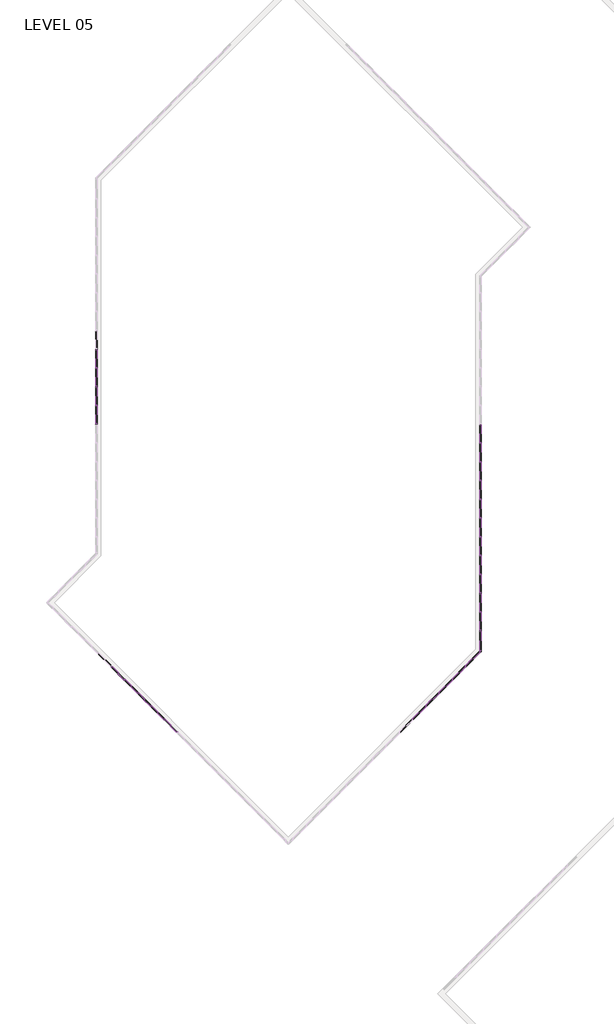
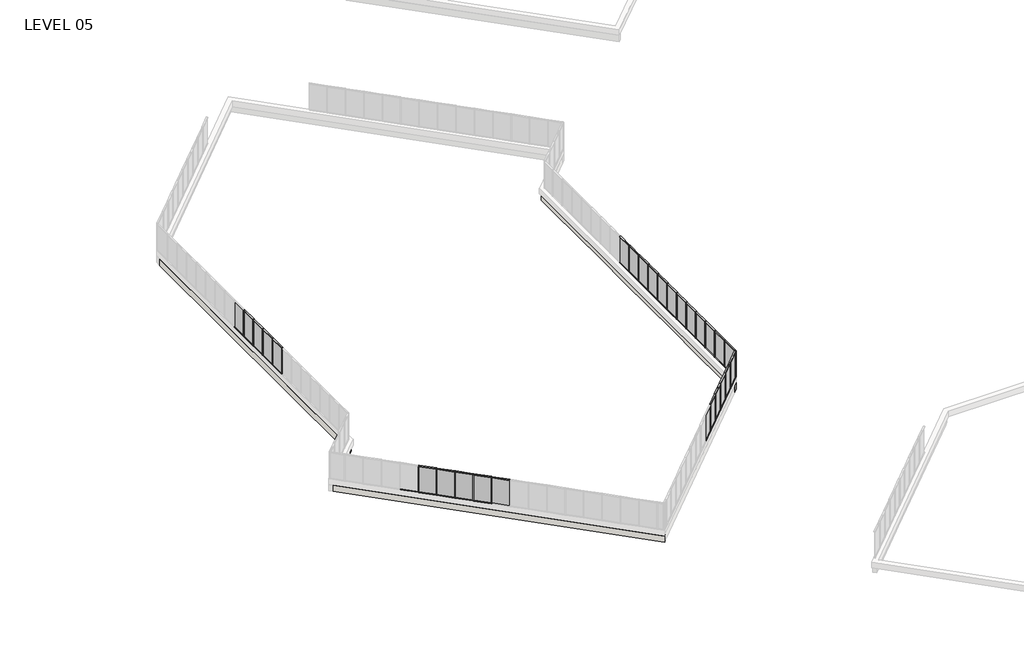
# One storey, part 4 of 17: 82 members, 28 plates, 3 walls.
"""IFC4 building model written with IfcOpenShell, lengths in millimetres."""

from ifc_helpers import new_model, si_unit, origin, place, context, project, spatial, faceted_brep, transform, mapped, element, save
from components import member_5247f267, member_e44af9ab, member_800970d4, member_c23f844a, member_1bd862b2, member_c975838b, member_ed9c17d6, plate_67294edd, plate_50b9cd61, plate_bbcbcabf, plate_db5d6751, plate_e0fd5134, plate_dca6a18a

model = new_model("IFC4")

# Units and contexts
model_context = context("Model", 3, world=origin())
ifc_project = project(units=[si_unit("LENGTHUNIT", "METRE", prefix="MILLI")], contexts=[model_context])

# Site, building, storey
site = spatial("IfcSite", under=ifc_project)
building = spatial("IfcBuilding", under=site)
storey = spatial("IfcBuildingStorey", under=building, Name="LEVEL 05", Elevation=15824.2)

# Members
placement = place(None, origin())
member_shape = member_5247f267(model_context)
element("IfcMember", 1, ObjectType="Rectangular Mullion : 2\" x 4.5\" rectangular", at=placement, inside=storey, context=model_context, shape_type="MappedRepresentation", body=[
    mapped(member_shape, transform((-32784.0347164, 58254.5675885, 18415.0), x_axis=(0.0, 0.0, 1.0), y_axis=(1.0, 0.0, 0.0), z_axis=(0.0, 1.0, 0.0))),
])
element("IfcMember", 2, ObjectType="Rectangular Mullion : 2\" x 4.5\" rectangular", at=placement, inside=storey, context=model_context, shape_type="MappedRepresentation", body=[
    mapped(member_shape, transform((-32784.0347164, 59778.5675885, 18415.0), x_axis=(0.0, 0.0, 1.0), y_axis=(1.0, 0.0, 0.0), z_axis=(0.0, 1.0, 0.0))),
])
element("IfcMember", 3, ObjectType="Rectangular Mullion : 2\" x 4.5\" rectangular", at=placement, inside=storey, context=model_context, shape_type="MappedRepresentation", body=[
    mapped(member_shape, transform((-32784.0347164, 62826.5675885, 18415.0), x_axis=(0.0, 0.0, 1.0), y_axis=(1.0, 0.0, 0.0), z_axis=(0.0, 1.0, 0.0))),
])
element("IfcMember", 4, ObjectType="Rectangular Mullion : 2\" x 4.5\" rectangular", at=placement, inside=storey, context=model_context, shape_type="MappedRepresentation", body=[
    mapped(member_shape, transform((-32784.0347164, 61302.5675885, 18415.0), x_axis=(0.0, 0.0, 1.0), y_axis=(1.0, 0.0, 0.0), z_axis=(0.0, 1.0, 0.0))),
])
element("IfcMember", 5, ObjectType="Rectangular Mullion : 2\" x 4.5\" rectangular", at=placement, inside=storey, context=model_context, shape_type="MappedRepresentation", body=[
    mapped(member_shape, transform((-1611.8847164, 49110.5675885, 18415.0), x_axis=(0.0, 0.0, 1.0), y_axis=(1.0, 0.0, 0.0), z_axis=(0.0, 1.0, 0.0))),
])
element("IfcMember", 6, ObjectType="Rectangular Mullion : 2\" x 4.5\" rectangular", at=placement, inside=storey, context=model_context, shape_type="MappedRepresentation", body=[
    mapped(member_shape, transform((-1611.8847164, 50634.5675885, 18415.0), x_axis=(0.0, 0.0, 1.0), y_axis=(1.0, 0.0, 0.0), z_axis=(0.0, 1.0, 0.0))),
])
element("IfcMember", 7, ObjectType="Rectangular Mullion : 2\" x 4.5\" rectangular", at=placement, inside=storey, context=model_context, shape_type="MappedRepresentation", body=[
    mapped(member_shape, transform((-1611.8847164, 52158.5675885, 18415.0), x_axis=(0.0, 0.0, 1.0), y_axis=(1.0, 0.0, 0.0), z_axis=(0.0, 1.0, 0.0))),
])
element("IfcMember", 8, ObjectType="Rectangular Mullion : 2\" x 4.5\" rectangular", at=placement, inside=storey, context=model_context, shape_type="MappedRepresentation", body=[
    mapped(member_shape, transform((-1611.8847164, 55206.5675885, 18415.0), x_axis=(0.0, 0.0, 1.0), y_axis=(1.0, 0.0, 0.0), z_axis=(0.0, 1.0, 0.0))),
])
element("IfcMember", 9, ObjectType="Rectangular Mullion : 2\" x 4.5\" rectangular", at=placement, inside=storey, context=model_context, shape_type="MappedRepresentation", body=[
    mapped(member_shape, transform((-1611.8847164, 56730.5675885, 18415.0), x_axis=(0.0, 0.0, 1.0), y_axis=(1.0, 0.0, 0.0), z_axis=(0.0, 1.0, 0.0))),
])
element("IfcMember", 10, ObjectType="Rectangular Mullion : 2\" x 4.5\" rectangular", at=placement, inside=storey, context=model_context, shape_type="MappedRepresentation", body=[
    mapped(member_shape, transform((-1611.8847164, 53682.5675885, 18415.0), x_axis=(0.0, 0.0, 1.0), y_axis=(1.0, 0.0, 0.0), z_axis=(0.0, 1.0, 0.0))),
])
element("IfcMember", 11, ObjectType="Rectangular Mullion : 2\" x 4.5\" rectangular", at=placement, inside=storey, context=model_context, shape_type="MappedRepresentation", body=[
    mapped(member_shape, transform((-1611.8847164, 47586.5675885, 18415.0), x_axis=(0.0, 0.0, 1.0), y_axis=(1.0, 0.0, 0.0), z_axis=(0.0, 1.0, 0.0))),
])
element("IfcMember", 12, ObjectType="Rectangular Mullion : 2\" x 4.5\" rectangular", at=placement, inside=storey, context=model_context, shape_type="MappedRepresentation", body=[
    mapped(member_shape, transform((-1611.8847164, 46062.5675885, 18415.0), x_axis=(0.0, 0.0, 1.0), y_axis=(1.0, 0.0, 0.0), z_axis=(0.0, 1.0, 0.0))),
])
element("IfcMember", 13, ObjectType="Rectangular Mullion : 2\" x 4.5\" rectangular", at=placement, inside=storey, context=model_context, shape_type="MappedRepresentation", body=[
    mapped(member_shape, transform((-1611.8847164, 44538.5675885, 18415.0), x_axis=(0.0, 0.0, 1.0), y_axis=(1.0, 0.0, 0.0), z_axis=(0.0, 1.0, 0.0))),
])
element("IfcMember", 14, ObjectType="Rectangular Mullion : 2\" x 4.5\" rectangular", at=placement, inside=storey, context=model_context, shape_type="MappedRepresentation", body=[
    mapped(member_shape, transform((-1611.8847164, 43014.5675885, 18415.0), x_axis=(0.0, 0.0, 1.0), y_axis=(1.0, 0.0, 0.0), z_axis=(0.0, 1.0, 0.0))),
])
element("IfcMember", 15, ObjectType="Rectangular Mullion : 2\" x 4.5\" rectangular", at=placement, inside=storey, context=model_context, shape_type="MappedRepresentation", body=[
    mapped(member_shape, transform((-1611.8847164, 41490.5675885, 18415.0), x_axis=(0.0, 0.0, 1.0), y_axis=(1.0, 0.0, 0.0), z_axis=(0.0, 1.0, 0.0))),
])
element("IfcMember", 16, ObjectType="Rectangular Mullion : 2\" x 4.5\" rectangular", at=placement, inside=storey, context=model_context, shape_type="MappedRepresentation", body=[
    mapped(member_shape, transform((-3866.0742688, 36048.0719005, 18415.0), x_axis=(0.0, 0.0, 1.0), y_axis=(-0.7071067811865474, 0.7071067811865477, 0.0), z_axis=(-0.7071067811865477, -0.7071067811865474, 0.0))),
])
element("IfcMember", 17, ObjectType="Rectangular Mullion : 2\" x 4.5\" rectangular", at=placement, inside=storey, context=model_context, shape_type="MappedRepresentation", body=[
    mapped(member_shape, transform((-4943.7050033, 34970.441166, 18415.0), x_axis=(0.0, 0.0, 1.0), y_axis=(-0.707106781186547, 0.707106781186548, 0.0), z_axis=(-0.707106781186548, -0.707106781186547, 0.0))),
])
element("IfcMember", 18, ObjectType="Rectangular Mullion : 2\" x 4.5\" rectangular", at=placement, inside=storey, context=model_context, shape_type="MappedRepresentation", body=[
    mapped(member_shape, transform((-6021.3357378, 33892.8104315, 18415.0), x_axis=(0.0, 0.0, 1.0), y_axis=(-0.7071067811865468, 0.7071067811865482, 0.0), z_axis=(-0.7071067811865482, -0.7071067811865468, 0.0))),
])
element("IfcMember", 19, ObjectType="Rectangular Mullion : 2\" x 4.5\" rectangular", at=placement, inside=storey, context=model_context, shape_type="MappedRepresentation", body=[
    mapped(member_shape, transform((-7098.9590715, 32815.1870978, 18415.0), x_axis=(0.0, 0.0, 1.0), y_axis=(-0.7071067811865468, 0.7071067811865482, 0.0), z_axis=(-0.7071067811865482, -0.7071067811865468, 0.0))),
])
element("IfcMember", 20, ObjectType="Rectangular Mullion : 2\" x 4.5\" rectangular", at=placement, inside=storey, context=model_context, shape_type="MappedRepresentation", body=[
    mapped(member_shape, transform((-32784.0347164, 56781.3675885, 15824.2), x_axis=(0.0, 0.0, -1.0), y_axis=(1.0, 0.0, 0.0), z_axis=(0.0, -1.0, 0.0))),
])
element("IfcMember", 21, ObjectType="Rectangular Mullion : 2\" x 4.5\" rectangular", at=placement, inside=storey, context=model_context, shape_type="MappedRepresentation", body=[
    mapped(member_shape, transform((-32784.0347164, 58305.3675885, 15824.2), x_axis=(0.0, 0.0, -1.0), y_axis=(1.0, 0.0, 0.0), z_axis=(0.0, -1.0, 0.0))),
])
element("IfcMember", 22, ObjectType="Rectangular Mullion : 2\" x 4.5\" rectangular", at=placement, inside=storey, context=model_context, shape_type="MappedRepresentation", body=[
    mapped(member_shape, transform((-32784.0347164, 59829.3675885, 15824.2), x_axis=(0.0, 0.0, -1.0), y_axis=(1.0, 0.0, 0.0), z_axis=(0.0, -1.0, 0.0))),
])
element("IfcMember", 23, ObjectType="Rectangular Mullion : 2\" x 4.5\" rectangular", at=placement, inside=storey, context=model_context, shape_type="MappedRepresentation", body=[
    mapped(member_shape, transform((-32784.0347164, 62877.3675885, 15824.2), x_axis=(0.0, 0.0, -1.0), y_axis=(1.0, 0.0, 0.0), z_axis=(0.0, -1.0, 0.0))),
])
element("IfcMember", 24, ObjectType="Rectangular Mullion : 2\" x 4.5\" rectangular", at=placement, inside=storey, context=model_context, shape_type="MappedRepresentation", body=[
    mapped(member_shape, transform((-32784.0347164, 61353.3675885, 15824.2), x_axis=(0.0, 0.0, -1.0), y_axis=(1.0, 0.0, 0.0), z_axis=(0.0, -1.0, 0.0))),
])
element("IfcMember", 25, ObjectType="Rectangular Mullion : 2\" x 4.5\" rectangular", at=placement, inside=storey, context=model_context, shape_type="MappedRepresentation", body=[
    mapped(member_shape, transform((-1611.8847164, 49161.3675885, 15824.2), x_axis=(0.0, 0.0, -1.0), y_axis=(1.0, 0.0, 0.0), z_axis=(0.0, -1.0, 0.0))),
])
element("IfcMember", 26, ObjectType="Rectangular Mullion : 2\" x 4.5\" rectangular", at=placement, inside=storey, context=model_context, shape_type="MappedRepresentation", body=[
    mapped(member_shape, transform((-1611.8847164, 50685.3675885, 15824.2), x_axis=(0.0, 0.0, -1.0), y_axis=(1.0, 0.0, 0.0), z_axis=(0.0, -1.0, 0.0))),
])
element("IfcMember", 27, ObjectType="Rectangular Mullion : 2\" x 4.5\" rectangular", at=placement, inside=storey, context=model_context, shape_type="MappedRepresentation", body=[
    mapped(member_shape, transform((-1611.8847164, 52209.3675885, 15824.2), x_axis=(0.0, 0.0, -1.0), y_axis=(1.0, 0.0, 0.0), z_axis=(0.0, -1.0, 0.0))),
])
element("IfcMember", 28, ObjectType="Rectangular Mullion : 2\" x 4.5\" rectangular", at=placement, inside=storey, context=model_context, shape_type="MappedRepresentation", body=[
    mapped(member_shape, transform((-1611.8847164, 55257.3675885, 15824.2), x_axis=(0.0, 0.0, -1.0), y_axis=(1.0, 0.0, 0.0), z_axis=(0.0, -1.0, 0.0))),
])
element("IfcMember", 29, ObjectType="Rectangular Mullion : 2\" x 4.5\" rectangular", at=placement, inside=storey, context=model_context, shape_type="MappedRepresentation", body=[
    mapped(member_shape, transform((-1611.8847164, 53733.3675885, 15824.2), x_axis=(0.0, 0.0, -1.0), y_axis=(1.0, 0.0, 0.0), z_axis=(0.0, -1.0, 0.0))),
])
element("IfcMember", 30, ObjectType="Rectangular Mullion : 2\" x 4.5\" rectangular", at=placement, inside=storey, context=model_context, shape_type="MappedRepresentation", body=[
    mapped(member_shape, transform((-1611.8847164, 47637.3675885, 15824.2), x_axis=(0.0, 0.0, -1.0), y_axis=(1.0, 0.0, 0.0), z_axis=(0.0, -1.0, 0.0))),
])
element("IfcMember", 31, ObjectType="Rectangular Mullion : 2\" x 4.5\" rectangular", at=placement, inside=storey, context=model_context, shape_type="MappedRepresentation", body=[
    mapped(member_shape, transform((-1611.8847164, 46113.3675885, 15824.2), x_axis=(0.0, 0.0, -1.0), y_axis=(1.0, 0.0, 0.0), z_axis=(0.0, -1.0, 0.0))),
])
element("IfcMember", 32, ObjectType="Rectangular Mullion : 2\" x 4.5\" rectangular", at=placement, inside=storey, context=model_context, shape_type="MappedRepresentation", body=[
    mapped(member_shape, transform((-1611.8847164, 44589.3675885, 15824.2), x_axis=(0.0, 0.0, -1.0), y_axis=(1.0, 0.0, 0.0), z_axis=(0.0, -1.0, 0.0))),
])
element("IfcMember", 33, ObjectType="Rectangular Mullion : 2\" x 4.5\" rectangular", at=placement, inside=storey, context=model_context, shape_type="MappedRepresentation", body=[
    mapped(member_shape, transform((-1611.8847164, 43065.3675885, 15824.2), x_axis=(0.0, 0.0, -1.0), y_axis=(1.0, 0.0, 0.0), z_axis=(0.0, -1.0, 0.0))),
])
element("IfcMember", 34, ObjectType="Rectangular Mullion : 2\" x 4.5\" rectangular", at=placement, inside=storey, context=model_context, shape_type="MappedRepresentation", body=[
    mapped(member_shape, transform((-1611.8847164, 41541.3675885, 15824.2), x_axis=(0.0, 0.0, -1.0), y_axis=(1.0, 0.0, 0.0), z_axis=(0.0, -1.0, 0.0))),
])
element("IfcMember", 35, ObjectType="Rectangular Mullion : 2\" x 4.5\" rectangular", at=placement, inside=storey, context=model_context, shape_type="MappedRepresentation", body=[
    mapped(member_shape, transform((-1611.8847164, 40017.3675885, 15824.2), x_axis=(0.0, 0.0, -1.0), y_axis=(1.0, 0.0, 0.0), z_axis=(0.0, -1.0, 0.0))),
])
element("IfcMember", 36, ObjectType="Rectangular Mullion : 2\" x 4.5\" rectangular", at=placement, inside=storey, context=model_context, shape_type="MappedRepresentation", body=[
    mapped(member_shape, transform((-3901.9952932, 36012.1508761, 15824.2), x_axis=(0.0, 0.0, -1.0), y_axis=(-0.7071067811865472, 0.7071067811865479, 0.0), z_axis=(0.7071067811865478, 0.7071067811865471, 0.0))),
])
element("IfcMember", 37, ObjectType="Rectangular Mullion : 2\" x 4.5\" rectangular", at=placement, inside=storey, context=model_context, shape_type="MappedRepresentation", body=[
    mapped(member_shape, transform((-4979.6260278, 34934.5201415, 15824.2), x_axis=(0.0, 0.0, -1.0), y_axis=(-0.7071067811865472, 0.7071067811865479, 0.0), z_axis=(0.7071067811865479, 0.7071067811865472, 0.0))),
])
element("IfcMember", 38, ObjectType="Rectangular Mullion : 2\" x 4.5\" rectangular", at=placement, inside=storey, context=model_context, shape_type="MappedRepresentation", body=[
    mapped(member_shape, transform((-6057.2567623, 33856.889407, 15824.2), x_axis=(0.0, 0.0, -1.0), y_axis=(-0.7071067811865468, 0.7071067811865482, 0.0), z_axis=(0.7071067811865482, 0.7071067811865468, 0.0))),
])
element("IfcMember", 39, ObjectType="Rectangular Mullion : 2\" x 4.5\" rectangular", at=placement, inside=storey, context=model_context, shape_type="MappedRepresentation", body=[
    mapped(member_shape, transform((-2824.3645587, 37089.7816106, 15824.2), x_axis=(0.0, 0.0, -1.0), y_axis=(-0.707106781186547, 0.7071067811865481, 0.0), z_axis=(0.707106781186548, 0.7071067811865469, 0.0))),
])
element("IfcMember", 40, ObjectType="Rectangular Mullion : 2\" x 4.5\" rectangular", at=placement, inside=storey, context=model_context, shape_type="MappedRepresentation", body=[
    mapped(member_shape, transform((-7134.880096, 32779.2660733, 15824.2), x_axis=(0.0, 0.0, -1.0), y_axis=(-0.7071067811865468, 0.7071067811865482, 0.0), z_axis=(0.7071067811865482, 0.7071067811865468, 0.0))),
])
element("IfcMember", 41, ObjectType="Rectangular Mullion : 2\" x 4.5\" rectangular", at=placement, inside=storey, context=model_context, shape_type="MappedRepresentation", body=[
    mapped(member_shape, transform((-31583.4219356, 37101.6486721, 15824.2), x_axis=(0.0, 0.0, -1.0), y_axis=(0.7071067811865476, 0.7071067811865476, 0.0), z_axis=(0.7071067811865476, -0.7071067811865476, 0.0))),
])
member_2_shape = member_e44af9ab(model_context)
element("IfcMember", 42, ObjectType="Rectangular Mullion : 2\" x 4.5\" rectangular", at=placement, inside=storey, context=model_context, shape_type="MappedRepresentation", body=[
    mapped(member_2_shape, transform((-32784.0347164, 56755.9675885, 15824.2), x_axis=(0.0, 1.0, 0.0), y_axis=(1.0, 0.0, 0.0), z_axis=(0.0, 0.0, -1.0))),
])
element("IfcMember", 43, ObjectType="Rectangular Mullion : 2\" x 4.5\" rectangular", at=placement, inside=storey, context=model_context, shape_type="MappedRepresentation", body=[
    mapped(member_2_shape, transform((-32784.0347164, 58279.9675885, 15824.2), x_axis=(0.0, 1.0, 0.0), y_axis=(1.0, 0.0, 0.0), z_axis=(0.0, 0.0, -1.0))),
])
element("IfcMember", 44, ObjectType="Rectangular Mullion : 2\" x 4.5\" rectangular", at=placement, inside=storey, context=model_context, shape_type="MappedRepresentation", body=[
    mapped(member_2_shape, transform((-32784.0347164, 59803.9675885, 15824.2), x_axis=(0.0, 1.0, 0.0), y_axis=(1.0, 0.0, 0.0), z_axis=(0.0, 0.0, -1.0))),
])
element("IfcMember", 45, ObjectType="Rectangular Mullion : 2\" x 4.5\" rectangular", at=placement, inside=storey, context=model_context, shape_type="MappedRepresentation", body=[
    mapped(member_2_shape, transform((-32784.0347164, 62851.9675885, 15824.2), x_axis=(0.0, 1.0, 0.0), y_axis=(1.0, 0.0, 0.0), z_axis=(0.0, 0.0, -1.0))),
])
element("IfcMember", 46, ObjectType="Rectangular Mullion : 2\" x 4.5\" rectangular", at=placement, inside=storey, context=model_context, shape_type="MappedRepresentation", body=[
    mapped(member_2_shape, transform((-32784.0347164, 61327.9675885, 15824.2), x_axis=(0.0, 1.0, 0.0), y_axis=(1.0, 0.0, 0.0), z_axis=(0.0, 0.0, -1.0))),
])
element("IfcMember", 47, ObjectType="Rectangular Mullion : 2\" x 4.5\" rectangular", at=placement, inside=storey, context=model_context, shape_type="MappedRepresentation", body=[
    mapped(member_2_shape, transform((-1611.8847164, 49135.9675885, 15824.2), x_axis=(0.0, 1.0, 0.0), y_axis=(1.0, 0.0, 0.0), z_axis=(0.0, 0.0, -1.0))),
])
element("IfcMember", 48, ObjectType="Rectangular Mullion : 2\" x 4.5\" rectangular", at=placement, inside=storey, context=model_context, shape_type="MappedRepresentation", body=[
    mapped(member_2_shape, transform((-1611.8847164, 50659.9675885, 15824.2), x_axis=(0.0, 1.0, 0.0), y_axis=(1.0, 0.0, 0.0), z_axis=(0.0, 0.0, -1.0))),
])
element("IfcMember", 49, ObjectType="Rectangular Mullion : 2\" x 4.5\" rectangular", at=placement, inside=storey, context=model_context, shape_type="MappedRepresentation", body=[
    mapped(member_2_shape, transform((-1611.8847164, 52183.9675885, 15824.2), x_axis=(0.0, 1.0, 0.0), y_axis=(1.0, 0.0, 0.0), z_axis=(0.0, 0.0, -1.0))),
])
element("IfcMember", 50, ObjectType="Rectangular Mullion : 2\" x 4.5\" rectangular", at=placement, inside=storey, context=model_context, shape_type="MappedRepresentation", body=[
    mapped(member_2_shape, transform((-1611.8847164, 55231.9675885, 15824.2), x_axis=(0.0, 1.0, 0.0), y_axis=(1.0, 0.0, 0.0), z_axis=(0.0, 0.0, -1.0))),
])
element("IfcMember", 51, ObjectType="Rectangular Mullion : 2\" x 4.5\" rectangular", at=placement, inside=storey, context=model_context, shape_type="MappedRepresentation", body=[
    mapped(member_2_shape, transform((-1611.8847164, 53707.9675885, 15824.2), x_axis=(0.0, 1.0, 0.0), y_axis=(1.0, 0.0, 0.0), z_axis=(0.0, 0.0, -1.0))),
])
element("IfcMember", 52, ObjectType="Rectangular Mullion : 2\" x 4.5\" rectangular", at=placement, inside=storey, context=model_context, shape_type="MappedRepresentation", body=[
    mapped(member_2_shape, transform((-1611.8847164, 47611.9675885, 15824.2), x_axis=(0.0, 1.0, 0.0), y_axis=(1.0, 0.0, 0.0), z_axis=(0.0, 0.0, -1.0))),
])
element("IfcMember", 53, ObjectType="Rectangular Mullion : 2\" x 4.5\" rectangular", at=placement, inside=storey, context=model_context, shape_type="MappedRepresentation", body=[
    mapped(member_2_shape, transform((-1611.8847164, 46087.9675885, 15824.2), x_axis=(0.0, 1.0, 0.0), y_axis=(1.0, 0.0, 0.0), z_axis=(0.0, 0.0, -1.0))),
])
element("IfcMember", 54, ObjectType="Rectangular Mullion : 2\" x 4.5\" rectangular", at=placement, inside=storey, context=model_context, shape_type="MappedRepresentation", body=[
    mapped(member_2_shape, transform((-1611.8847164, 44563.9675885, 15824.2), x_axis=(0.0, 1.0, 0.0), y_axis=(1.0, 0.0, 0.0), z_axis=(0.0, 0.0, -1.0))),
])
element("IfcMember", 55, ObjectType="Rectangular Mullion : 2\" x 4.5\" rectangular", at=placement, inside=storey, context=model_context, shape_type="MappedRepresentation", body=[
    mapped(member_2_shape, transform((-1611.8847164, 43039.9675885, 15824.2), x_axis=(0.0, 1.0, 0.0), y_axis=(1.0, 0.0, 0.0), z_axis=(0.0, 0.0, -1.0))),
])
element("IfcMember", 56, ObjectType="Rectangular Mullion : 2\" x 4.5\" rectangular", at=placement, inside=storey, context=model_context, shape_type="MappedRepresentation", body=[
    mapped(member_2_shape, transform((-1611.8847164, 41515.9675885, 15824.2), x_axis=(0.0, 1.0, 0.0), y_axis=(1.0, 0.0, 0.0), z_axis=(0.0, 0.0, -1.0))),
])
element("IfcMember", 57, ObjectType="Rectangular Mullion : 2\" x 4.5\" rectangular", at=placement, inside=storey, context=model_context, shape_type="MappedRepresentation", body=[
    mapped(member_2_shape, transform((-1611.8847164, 39991.9675885, 15824.2), x_axis=(0.0, 1.0, 0.0), y_axis=(1.0, 0.0, 0.0), z_axis=(0.0, 0.0, -1.0))),
])
element("IfcMember", 58, ObjectType="Rectangular Mullion : 2\" x 4.5\" rectangular", at=placement, inside=storey, context=model_context, shape_type="MappedRepresentation", body=[
    mapped(member_2_shape, transform((-3884.034781, 36030.1113883, 15824.2), x_axis=(-0.7071067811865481, -0.7071067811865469, 0.0), y_axis=(-0.7071067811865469, 0.7071067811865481, 0.0), z_axis=(0.0, 0.0, -1.0))),
])
element("IfcMember", 59, ObjectType="Rectangular Mullion : 2\" x 4.5\" rectangular", at=placement, inside=storey, context=model_context, shape_type="MappedRepresentation", body=[
    mapped(member_2_shape, transform((-4961.6655155, 34952.4806538, 15824.2), x_axis=(-0.7071067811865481, -0.7071067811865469, 0.0), y_axis=(-0.7071067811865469, 0.7071067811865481, 0.0), z_axis=(0.0, 0.0, -1.0))),
])
element("IfcMember", 60, ObjectType="Rectangular Mullion : 2\" x 4.5\" rectangular", at=placement, inside=storey, context=model_context, shape_type="MappedRepresentation", body=[
    mapped(member_2_shape, transform((-6039.2962501, 33874.8499192, 15824.2), x_axis=(-0.7071067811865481, -0.7071067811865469, 0.0), y_axis=(-0.7071067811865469, 0.7071067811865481, 0.0), z_axis=(0.0, 0.0, -1.0))),
])
element("IfcMember", 61, ObjectType="Rectangular Mullion : 2\" x 4.5\" rectangular", at=placement, inside=storey, context=model_context, shape_type="MappedRepresentation", body=[
    mapped(member_2_shape, transform((-2806.4040465, 37107.7421228, 15824.2), x_axis=(-0.7071067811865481, -0.7071067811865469, 0.0), y_axis=(-0.7071067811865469, 0.7071067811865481, 0.0), z_axis=(0.0, 0.0, -1.0))),
])
element("IfcMember", 62, ObjectType="Rectangular Mullion : 2\" x 4.5\" rectangular", at=placement, inside=storey, context=model_context, shape_type="MappedRepresentation", body=[
    mapped(member_2_shape, transform((-7116.9195837, 32797.2265856, 15824.2), x_axis=(-0.7071067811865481, -0.7071067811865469, 0.0), y_axis=(-0.7071067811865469, 0.7071067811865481, 0.0), z_axis=(0.0, 0.0, -1.0))),
])
element("IfcMember", 63, ObjectType="Rectangular Mullion : 2\" x 4.5\" rectangular", at=placement, inside=storey, context=model_context, shape_type="MappedRepresentation", body=[
    mapped(member_2_shape, transform((-28350.531194, 33868.7579305, 15824.2), x_axis=(-0.7071067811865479, 0.7071067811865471, 0.0), y_axis=(0.7071067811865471, 0.7071067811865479, 0.0), z_axis=(0.0, 0.0, -1.0))),
])
element("IfcMember", 64, ObjectType="Rectangular Mullion : 2\" x 4.5\" rectangular", at=placement, inside=storey, context=model_context, shape_type="MappedRepresentation", body=[
    mapped(member_2_shape, transform((-29422.1746038, 34940.4013403, 15824.2), x_axis=(-0.7071067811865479, 0.7071067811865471, 0.0), y_axis=(0.7071067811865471, 0.7071067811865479, 0.0), z_axis=(0.0, 0.0, -1.0))),
])
element("IfcMember", 65, ObjectType="Rectangular Mullion : 2\" x 4.5\" rectangular", at=placement, inside=storey, context=model_context, shape_type="MappedRepresentation", body=[
    mapped(member_2_shape, transform((-30493.8180136, 36012.0447501, 15824.2), x_axis=(-0.7071067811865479, 0.7071067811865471, 0.0), y_axis=(0.7071067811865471, 0.7071067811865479, 0.0), z_axis=(0.0, 0.0, -1.0))),
])
element("IfcMember", 66, ObjectType="Rectangular Mullion : 2\" x 4.5\" rectangular", at=placement, inside=storey, context=model_context, shape_type="MappedRepresentation", body=[
    mapped(member_2_shape, transform((-31565.4614234, 37083.6881599, 15824.2), x_axis=(-0.7071067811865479, 0.7071067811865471, 0.0), y_axis=(0.7071067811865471, 0.7071067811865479, 0.0), z_axis=(0.0, 0.0, -1.0))),
])
element("IfcMember", 67, ObjectType="Rectangular Mullion : 2\" x 4.5\" rectangular", at=placement, inside=storey, context=model_context, shape_type="MappedRepresentation", body=[
    mapped(member_2_shape, transform((-27275.9119891, 32794.1387256, 15824.2), x_axis=(-0.7071067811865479, 0.7071067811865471, 0.0), y_axis=(0.7071067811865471, 0.7071067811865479, 0.0), z_axis=(0.0, 0.0, -1.0))),
])
member_3_shape = member_800970d4(model_context)
element("IfcMember", 68, ObjectType="Rectangular Mullion : 2\" x 4.5\" rectangular", at=placement, inside=storey, context=model_context, shape_type="MappedRepresentation", body=[
    mapped(member_3_shape, transform((-1611.8847164, 38302.2614529, 18415.0), x_axis=(0.0, -1.0, 0.0), y_axis=(1.0, 0.0, 0.0), z_axis=(0.0, 0.0, 1.0))),
])
element("IfcMember", 69, ObjectType="Rectangular Mullion : 2\" x 4.5\" rectangular", at=placement, inside=storey, context=model_context, shape_type="MappedRepresentation", body=[
    mapped(member_3_shape, transform((-1611.8847164, 38302.2614529, 18415.0), x_axis=(0.7071067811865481, 0.7071067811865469, 0.0), y_axis=(-0.7071067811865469, 0.7071067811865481, 0.0), z_axis=(0.0, 0.0, 1.0))),
])
member_4_shape = member_c23f844a(model_context)
element("IfcMember", 70, ObjectType="Rectangular Mullion : 2\" x 4.5\" rectangular", at=placement, inside=storey, context=model_context, shape_type="MappedRepresentation", body=[
    mapped(member_4_shape, transform((-29404.2140916, 34922.4408281, 18415.0), x_axis=(0.0, 0.0, 1.0), y_axis=(0.7071067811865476, 0.7071067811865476, 0.0), z_axis=(-0.7071067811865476, 0.7071067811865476, 0.0))),
])
element("IfcMember", 71, ObjectType="Rectangular Mullion : 2\" x 4.5\" rectangular", at=placement, inside=storey, context=model_context, shape_type="MappedRepresentation", body=[
    mapped(member_4_shape, transform((-30475.8575014, 35994.0842378, 18415.0), x_axis=(0.0, 0.0, 1.0), y_axis=(0.7071067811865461, 0.707106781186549, 0.0), z_axis=(-0.707106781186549, 0.7071067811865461, 0.0))),
])
element("IfcMember", 72, ObjectType="Rectangular Mullion : 2\" x 4.5\" rectangular", at=placement, inside=storey, context=model_context, shape_type="MappedRepresentation", body=[
    mapped(member_4_shape, transform((-31547.5009111, 37065.7276476, 18415.0), x_axis=(0.0, 0.0, 1.0), y_axis=(0.7071067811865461, 0.707106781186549, 0.0), z_axis=(-0.7071067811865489, 0.707106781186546, 0.0))),
])
element("IfcMember", 73, ObjectType="Rectangular Mullion : 2\" x 4.5\" rectangular", at=placement, inside=storey, context=model_context, shape_type="MappedRepresentation", body=[
    mapped(member_4_shape, transform((-28368.4917063, 33886.7184427, 15824.2), x_axis=(0.0, 0.0, -1.0), y_axis=(0.7071067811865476, 0.7071067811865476, 0.0), z_axis=(0.7071067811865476, -0.7071067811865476, 0.0))),
])
element("IfcMember", 74, ObjectType="Rectangular Mullion : 2\" x 4.5\" rectangular", at=placement, inside=storey, context=model_context, shape_type="MappedRepresentation", body=[
    mapped(member_4_shape, transform((-29440.135116, 34958.3618525, 15824.2), x_axis=(0.0, 0.0, -1.0), y_axis=(0.7071067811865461, 0.707106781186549, 0.0), z_axis=(0.707106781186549, -0.7071067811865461, 0.0))),
])
element("IfcMember", 75, ObjectType="Rectangular Mullion : 2\" x 4.5\" rectangular", at=placement, inside=storey, context=model_context, shape_type="MappedRepresentation", body=[
    mapped(member_4_shape, transform((-30511.7785258, 36030.0052623, 15824.2), x_axis=(0.0, 0.0, -1.0), y_axis=(0.7071067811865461, 0.707106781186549, 0.0), z_axis=(0.7071067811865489, -0.707106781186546, 0.0))),
])
member_5_shape = member_1bd862b2(model_context)
element("IfcMember", 76, ObjectType="Rectangular Mullion : 2\" x 4.5\" rectangular", at=placement, inside=storey, context=model_context, shape_type="MappedRepresentation", body=[
    mapped(member_5_shape, transform((-1611.8847164, 38353.0614529, 15824.2), x_axis=(0.0, 0.0, -1.0), y_axis=(1.0, 0.0, 0.0), z_axis=(0.0, -1.0, 0.0))),
])
element("IfcMember", 77, ObjectType="Rectangular Mullion : 2\" x 4.5\" rectangular", at=placement, inside=storey, context=model_context, shape_type="MappedRepresentation", body=[
    mapped(member_5_shape, transform((-1611.8847164, 39966.5675885, 18415.0), x_axis=(0.0, 0.0, 1.0), y_axis=(1.0, 0.0, 0.0), z_axis=(0.0, 1.0, 0.0))),
])
member_6_shape = member_c975838b(model_context)
element("IfcMember", 78, ObjectType="Rectangular Mullion : 2\" x 4.5\" rectangular", at=placement, inside=storey, context=model_context, shape_type="MappedRepresentation", body=[
    mapped(member_6_shape, transform((-1647.8057409, 38266.3404284, 15824.2), x_axis=(0.0, 0.0, -1.0), y_axis=(-0.7071067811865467, 0.7071067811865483, 0.0), z_axis=(0.7071067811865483, 0.7071067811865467, 0.0))),
])
element("IfcMember", 79, ObjectType="Rectangular Mullion : 2\" x 4.5\" rectangular", at=placement, inside=storey, context=model_context, shape_type="MappedRepresentation", body=[
    mapped(member_6_shape, transform((-2788.4435342, 37125.7026351, 18415.0), x_axis=(0.0, 0.0, 1.0), y_axis=(-0.7071067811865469, 0.7071067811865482, 0.0), z_axis=(-0.7071067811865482, -0.7071067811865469, 0.0))),
])
member_7_shape = member_ed9c17d6(model_context)
element("IfcMember", 80, ObjectType="Rectangular Mullion : 2\" x 4.5\" rectangular", at=placement, inside=storey, context=model_context, shape_type="MappedRepresentation", body=[
    mapped(member_7_shape, transform((-28332.5706818, 33850.7974183, 18415.0), x_axis=(0.0, 0.0, 1.0), y_axis=(0.7071067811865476, 0.7071067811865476, 0.0), z_axis=(-0.7071067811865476, 0.7071067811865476, 0.0))),
])
element("IfcMember", 81, ObjectType="Rectangular Mullion : 2\" x 4.5\" rectangular", at=placement, inside=storey, context=model_context, shape_type="MappedRepresentation", body=[
    mapped(member_7_shape, transform((-27257.9514769, 32776.1782134, 18415.0), x_axis=(0.0, 0.0, 1.0), y_axis=(0.7071067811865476, 0.7071067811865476, 0.0), z_axis=(-0.7071067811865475, 0.7071067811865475, 0.0))),
])
element("IfcMember", 82, ObjectType="Rectangular Mullion : 2\" x 4.5\" rectangular", at=placement, inside=storey, context=model_context, shape_type="MappedRepresentation", body=[
    mapped(member_7_shape, transform((-27293.8725014, 32812.0992378, 15824.2), x_axis=(0.0, 0.0, -1.0), y_axis=(0.7071067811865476, 0.7071067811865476, 0.0), z_axis=(0.7071067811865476, -0.7071067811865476, 0.0))),
])

# Plates
plate_shape = plate_67294edd(model_context)
element("IfcPlate", 83, ObjectType="System Panel : 1/4\" Glass", at=placement, inside=storey, context=model_context, shape_type="MappedRepresentation", body=[
    mapped(plate_shape, transform((-32784.0347164, 57517.9675885, 15875.0), x_axis=(0.0, 1.0, 0.0), y_axis=(-1.0, 0.0, 0.0), z_axis=(0.0, 0.0, 1.0))),
])
element("IfcPlate", 84, ObjectType="System Panel : 1/4\" Glass", at=placement, inside=storey, context=model_context, shape_type="MappedRepresentation", body=[
    mapped(plate_shape, transform((-32784.0347164, 59041.9675885, 15875.0), x_axis=(0.0, 1.0, 0.0), y_axis=(-1.0, 0.0, 0.0), z_axis=(0.0, 0.0, 1.0))),
])
element("IfcPlate", 85, ObjectType="System Panel : 1/4\" Glass", at=placement, inside=storey, context=model_context, shape_type="MappedRepresentation", body=[
    mapped(plate_shape, transform((-32784.0347164, 60565.9675885, 15875.0), x_axis=(0.0, 1.0, 0.0), y_axis=(-1.0, 0.0, 0.0), z_axis=(0.0, 0.0, 1.0))),
])
element("IfcPlate", 86, ObjectType="System Panel : 1/4\" Glass", at=placement, inside=storey, context=model_context, shape_type="MappedRepresentation", body=[
    mapped(plate_shape, transform((-32784.0347164, 63613.9675885, 15875.0), x_axis=(0.0, 1.0, 0.0), y_axis=(-1.0, 0.0, 0.0), z_axis=(0.0, 0.0, 1.0))),
])
element("IfcPlate", 87, ObjectType="System Panel : 1/4\" Glass", at=placement, inside=storey, context=model_context, shape_type="MappedRepresentation", body=[
    mapped(plate_shape, transform((-32784.0347164, 62089.9675885, 15875.0), x_axis=(0.0, 1.0, 0.0), y_axis=(-1.0, 0.0, 0.0), z_axis=(0.0, 0.0, 1.0))),
])
element("IfcPlate", 88, ObjectType="System Panel : 1/4\" Glass", at=placement, inside=storey, context=model_context, shape_type="MappedRepresentation", body=[
    mapped(plate_shape, transform((-1611.8847164, 49897.9675885, 15875.0), x_axis=(0.0, 1.0, 0.0), y_axis=(-1.0, 0.0, 0.0), z_axis=(0.0, 0.0, 1.0))),
])
element("IfcPlate", 89, ObjectType="System Panel : 1/4\" Glass", at=placement, inside=storey, context=model_context, shape_type="MappedRepresentation", body=[
    mapped(plate_shape, transform((-1611.8847164, 51421.9675885, 15875.0), x_axis=(0.0, 1.0, 0.0), y_axis=(-1.0, 0.0, 0.0), z_axis=(0.0, 0.0, 1.0))),
])
element("IfcPlate", 90, ObjectType="System Panel : 1/4\" Glass", at=placement, inside=storey, context=model_context, shape_type="MappedRepresentation", body=[
    mapped(plate_shape, transform((-1611.8847164, 52945.9675885, 15875.0), x_axis=(0.0, 1.0, 0.0), y_axis=(-1.0, 0.0, 0.0), z_axis=(0.0, 0.0, 1.0))),
])
element("IfcPlate", 91, ObjectType="System Panel : 1/4\" Glass", at=placement, inside=storey, context=model_context, shape_type="MappedRepresentation", body=[
    mapped(plate_shape, transform((-1611.8847164, 55993.9675885, 15875.0), x_axis=(0.0, 1.0, 0.0), y_axis=(-1.0, 0.0, 0.0), z_axis=(0.0, 0.0, 1.0))),
])
element("IfcPlate", 92, ObjectType="System Panel : 1/4\" Glass", at=placement, inside=storey, context=model_context, shape_type="MappedRepresentation", body=[
    mapped(plate_shape, transform((-1611.8847164, 54469.9675885, 15875.0), x_axis=(0.0, 1.0, 0.0), y_axis=(-1.0, 0.0, 0.0), z_axis=(0.0, 0.0, 1.0))),
])
element("IfcPlate", 93, ObjectType="System Panel : 1/4\" Glass", at=placement, inside=storey, context=model_context, shape_type="MappedRepresentation", body=[
    mapped(plate_shape, transform((-1611.8847164, 48373.9675885, 15875.0), x_axis=(0.0, 1.0, 0.0), y_axis=(-1.0, 0.0, 0.0), z_axis=(0.0, 0.0, 1.0))),
])
element("IfcPlate", 94, ObjectType="System Panel : 1/4\" Glass", at=placement, inside=storey, context=model_context, shape_type="MappedRepresentation", body=[
    mapped(plate_shape, transform((-1611.8847164, 46849.9675885, 15875.0), x_axis=(0.0, 1.0, 0.0), y_axis=(-1.0, 0.0, 0.0), z_axis=(0.0, 0.0, 1.0))),
])
element("IfcPlate", 95, ObjectType="System Panel : 1/4\" Glass", at=placement, inside=storey, context=model_context, shape_type="MappedRepresentation", body=[
    mapped(plate_shape, transform((-1611.8847164, 45325.9675885, 15875.0), x_axis=(0.0, 1.0, 0.0), y_axis=(-1.0, 0.0, 0.0), z_axis=(0.0, 0.0, 1.0))),
])
element("IfcPlate", 96, ObjectType="System Panel : 1/4\" Glass", at=placement, inside=storey, context=model_context, shape_type="MappedRepresentation", body=[
    mapped(plate_shape, transform((-1611.8847164, 43801.9675885, 15875.0), x_axis=(0.0, 1.0, 0.0), y_axis=(-1.0, 0.0, 0.0), z_axis=(0.0, 0.0, 1.0))),
])
element("IfcPlate", 97, ObjectType="System Panel : 1/4\" Glass", at=placement, inside=storey, context=model_context, shape_type="MappedRepresentation", body=[
    mapped(plate_shape, transform((-1611.8847164, 42277.9675885, 15875.0), x_axis=(0.0, 1.0, 0.0), y_axis=(-1.0, 0.0, 0.0), z_axis=(0.0, 0.0, 1.0))),
])
element("IfcPlate", 98, ObjectType="System Panel : 1/4\" Glass", at=placement, inside=storey, context=model_context, shape_type="MappedRepresentation", body=[
    mapped(plate_shape, transform((-1611.8847164, 40753.9675885, 15875.0), x_axis=(0.0, 1.0, 0.0), y_axis=(-1.0, 0.0, 0.0), z_axis=(0.0, 0.0, 1.0))),
])
element("IfcPlate", 99, ObjectType="System Panel : 1/4\" Glass", at=placement, inside=storey, context=model_context, shape_type="MappedRepresentation", body=[
    mapped(plate_shape, transform((-4422.8501483, 35491.296021, 15875.0), x_axis=(-0.7071067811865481, -0.7071067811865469, 0.0), y_axis=(0.7071067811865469, -0.7071067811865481, 0.0), z_axis=(0.0, 0.0, 1.0))),
])
element("IfcPlate", 100, ObjectType="System Panel : 1/4\" Glass", at=placement, inside=storey, context=model_context, shape_type="MappedRepresentation", body=[
    mapped(plate_shape, transform((-5500.4808828, 34413.6652865, 15875.0), x_axis=(-0.7071067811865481, -0.7071067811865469, 0.0), y_axis=(0.7071067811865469, -0.7071067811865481, 0.0), z_axis=(0.0, 0.0, 1.0))),
])
element("IfcPlate", 101, ObjectType="System Panel : 1/4\" Glass", at=placement, inside=storey, context=model_context, shape_type="MappedRepresentation", body=[
    mapped(plate_shape, transform((-3345.2194137, 36568.9267556, 15875.0), x_axis=(-0.7071067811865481, -0.7071067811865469, 0.0), y_axis=(0.7071067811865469, -0.7071067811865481, 0.0), z_axis=(0.0, 0.0, 1.0))),
])
plate_2_shape = plate_50b9cd61(model_context)
element("IfcPlate", 102, ObjectType="System Panel : 1/4\" Glass", at=placement, inside=storey, context=model_context, shape_type="MappedRepresentation", body=[
    mapped(plate_2_shape, transform((-28886.3528989, 34404.5796354, 15875.0), x_axis=(-0.7071067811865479, 0.7071067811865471, 0.0), y_axis=(-0.7071067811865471, -0.7071067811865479, 0.0), z_axis=(0.0, 0.0, 1.0))),
])
element("IfcPlate", 103, ObjectType="System Panel : 1/4\" Glass", at=placement, inside=storey, context=model_context, shape_type="MappedRepresentation", body=[
    mapped(plate_2_shape, transform((-29957.9963087, 35476.2230452, 15875.0), x_axis=(-0.7071067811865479, 0.7071067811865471, 0.0), y_axis=(-0.7071067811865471, -0.7071067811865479, 0.0), z_axis=(0.0, 0.0, 1.0))),
])
element("IfcPlate", 104, ObjectType="System Panel : 1/4\" Glass", at=placement, inside=storey, context=model_context, shape_type="MappedRepresentation", body=[
    mapped(plate_2_shape, transform((-31029.6397185, 36547.866455, 15875.0), x_axis=(-0.7071067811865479, 0.7071067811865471, 0.0), y_axis=(-0.7071067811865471, -0.7071067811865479, 0.0), z_axis=(0.0, 0.0, 1.0))),
])
plate_3_shape = plate_bbcbcabf(model_context)
element("IfcPlate", 105, ObjectType="System Panel : 1/4\" Glass", at=placement, inside=storey, context=model_context, shape_type="MappedRepresentation", body=[
    mapped(plate_3_shape, transform((-1611.8847164, 39159.8145207, 15875.0), x_axis=(0.0, 1.0, 0.0), y_axis=(-1.0, 0.0, 0.0), z_axis=(0.0, 0.0, 1.0))),
])
plate_4_shape = plate_db5d6751(model_context)
element("IfcPlate", 106, ObjectType="System Panel : 1/4\" Glass", at=placement, inside=storey, context=model_context, shape_type="MappedRepresentation", body=[
    mapped(plate_4_shape, transform((-2218.1246376, 37696.0215317, 15875.0), x_axis=(-0.7071067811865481, -0.7071067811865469, 0.0), y_axis=(0.7071067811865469, -0.7071067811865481, 0.0), z_axis=(0.0, 0.0, 1.0))),
])
plate_5_shape = plate_e0fd5134(model_context)
element("IfcPlate", 107, ObjectType="System Panel : 1/4\" Glass", at=placement, inside=storey, context=model_context, shape_type="MappedRepresentation", body=[
    mapped(plate_5_shape, transform((-6578.1079169, 33336.0382524, 15875.0), x_axis=(-0.7071067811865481, -0.7071067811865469, 0.0), y_axis=(0.7071067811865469, -0.7071067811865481, 0.0), z_axis=(0.0, 0.0, 1.0))),
])
element("IfcPlate", 108, ObjectType="System Panel : 1/4\" Glass", at=placement, inside=storey, context=model_context, shape_type="MappedRepresentation", body=[
    mapped(plate_5_shape, transform((-7655.7312505, 32258.4149187, 15875.0), x_axis=(-0.7071067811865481, -0.7071067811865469, 0.0), y_axis=(0.7071067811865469, -0.7071067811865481, 0.0), z_axis=(0.0, 0.0, 1.0))),
])
plate_6_shape = plate_dca6a18a(model_context)
element("IfcPlate", 109, ObjectType="System Panel : 1/4\" Glass", at=placement, inside=storey, context=model_context, shape_type="MappedRepresentation", body=[
    mapped(plate_6_shape, transform((-26738.6023867, 32256.8291232, 15875.0), x_axis=(-0.7071067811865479, 0.7071067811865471, 0.0), y_axis=(-0.7071067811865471, -0.7071067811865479, 0.0), z_axis=(0.0, 0.0, 1.0))),
])
element("IfcPlate", 110, ObjectType="System Panel : 1/4\" Glass", at=placement, inside=storey, context=model_context, shape_type="MappedRepresentation", body=[
    mapped(plate_6_shape, transform((-27813.2215916, 33331.4483281, 15875.0), x_axis=(-0.7071067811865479, 0.7071067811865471, 0.0), y_axis=(-0.7071067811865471, -0.7071067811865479, 0.0), z_axis=(0.0, 0.0, 1.0))),
])

# Walls
element("IfcWall", 111, ObjectType="01-CONCRETE-12", at=placement, inside=storey, context=model_context, shape_type="Brep", body=[
    faceted_brep([(-1554.7347164, 38278.5891478, 14643.1), (-1554.7347164, 68758.5891478, 14643.1), (-1554.7347164, 69189.6414416, 14643.1), (-1554.7347164, 69189.6414416, 15265.4), (-1554.7347164, 68758.5891478, 15265.4), (-1554.7347164, 38278.5891478, 15265.4), (-1859.5347164, 37973.7891478, 14643.1), (-1859.5347164, 37973.7891478, 15265.4), (-1859.5347164, 38404.8414416, 15265.4), (-1859.5347164, 38687.1039803, 15265.4), (-1859.5347164, 45783.1675885, 15265.4), (-1859.5347164, 46392.7675885, 15265.4), (-1859.5347164, 53403.1675885, 15265.4), (-1859.5347164, 54012.7675885, 15265.4), (-1859.5347164, 61023.1675885, 15265.4), (-1859.5347164, 61632.7675885, 15265.4), (-1859.5347164, 68643.1675885, 15265.4), (-1859.5347164, 68884.8414416, 15265.4), (-1859.5347164, 68884.8414416, 14643.1), (-1859.5347164, 68643.1675885, 14643.1), (-1859.5347164, 61632.7675885, 14643.1), (-1859.5347164, 61023.1675885, 14643.1), (-1859.5347164, 54012.7675885, 14643.1), (-1859.5347164, 53403.1675885, 14643.1), (-1859.5347164, 46392.7675885, 14643.1), (-1859.5347164, 45783.1675885, 14643.1), (-1859.5347164, 38687.1039803, 14643.1), (-1859.5347164, 38404.8414416, 14643.1), (-1808.7347164, 68935.6414416, 14643.1), (-1808.7347164, 68935.6414416, 15265.4)], [[[0, 1, 2, 3, 4, 5]], [[6, 7, 8, 9, 10, 11, 12, 13, 14, 15, 16, 17, 18, 19, 20, 21, 22, 23, 24, 25, 26, 27]], [[2, 1, 0, 6, 27, 26, 25, 24, 23, 22, 21, 20, 19, 18, 28]], [[5, 4, 3, 29, 17, 16, 15, 14, 13, 12, 11, 10, 9, 8, 7]], [[3, 2, 28, 18, 17, 29]], [[0, 5, 7, 6]]]),
])
element("IfcWall", 112, ObjectType="01-CONCRETE-12", at=placement, inside=storey, context=model_context, shape_type="Brep", body=[
    faceted_brep([(-32841.1847164, 76326.2937354, 14643.1), (-32841.1847164, 46277.3460292, 14643.1), (-32841.1847164, 45846.2937354, 14643.1), (-32841.1847164, 45846.2937354, 15265.4), (-32841.1847164, 46277.3460292, 15265.4), (-32841.1847164, 76326.2937354, 15265.4), (-32536.3847164, 76631.0937354, 14643.1), (-32536.3847164, 76631.0937354, 15265.4), (-32536.3847164, 46151.0937354, 15265.4), (-32536.3847164, 46151.0937354, 14643.1)], [[[0, 1, 2, 3, 4, 5]], [[6, 7, 8, 9]], [[2, 1, 0, 6, 9]], [[5, 4, 3, 8, 7]], [[0, 5, 7, 6]], [[3, 2, 9, 8]]]),
])
element("IfcWall", 113, ObjectType="01-CONCRETE-12", at=placement, inside=storey, context=model_context, shape_type="Brep", body=[
    faceted_brep([(-36625.0370102, 42062.4414416, 14643.1), (-17197.9597164, 22635.3641478, 14643.1), (-17197.9597164, 22635.3641478, 15265.4), (-36625.0370102, 42062.4414416, 15265.4), (-36409.5108633, 42277.9675885, 14643.1), (-36409.5108633, 42277.9675885, 15265.4), (-17197.9597164, 23066.4164416, 15265.4), (-16982.4335695, 22850.8902947, 15265.4), (-16982.4335695, 22850.8902947, 14643.1), (-17197.9597164, 23066.4164416, 14643.1)], [[[0, 1, 2, 3]], [[4, 5, 6, 7, 8, 9]], [[1, 0, 4, 9, 8]], [[3, 2, 7, 6, 5]], [[0, 3, 5, 4]], [[2, 1, 8, 7]]]),
])

save(model, "model.ifc")
